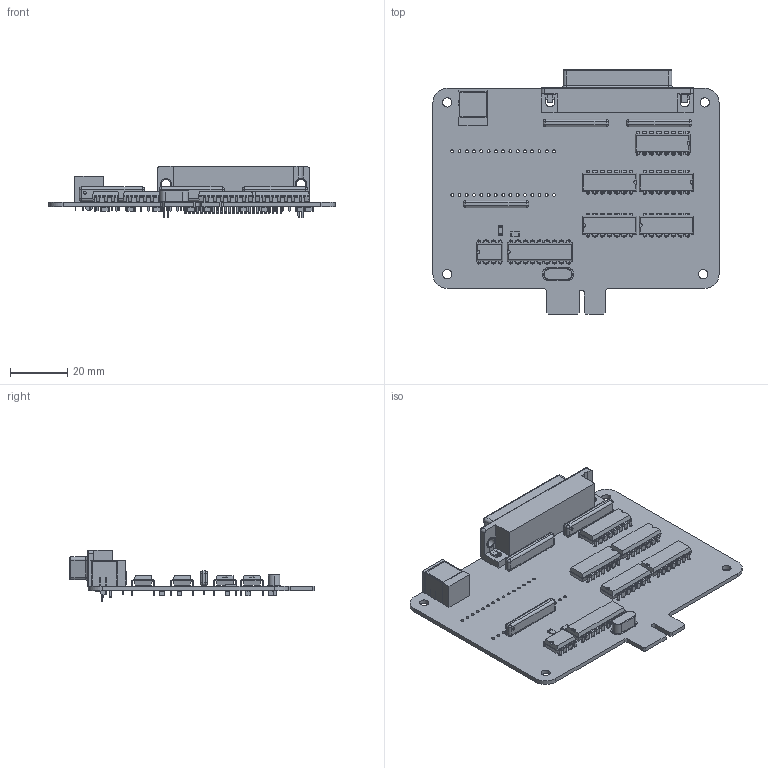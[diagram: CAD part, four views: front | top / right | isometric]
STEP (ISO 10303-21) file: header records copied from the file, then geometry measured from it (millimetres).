
FILE_DESCRIPTION(('KiCad electronic assembly'),'2;1');
FILE_NAME('BREAD_slice_v2.step','2026-10-14T14:11:18',('Pcbnew'),( 'Kicad'),'Open CASCADE STEP processor 7.6','KiCad to STEP converter' ,'Unknown');
FILE_SCHEMA(('AUTOMOTIVE_DESIGN { 1 0 10303 214 1 1 1 1 }'));
Length unit declared in the file: millimetre
Products named in the file (22): BREAD_slice_v2 1; DIP-8_W7.62mm; BarrelJack_CUI_PJ-063AH_Horizontal; DSUB-25_Socket_Horizontal_P2.77x2.84mm_EdgePinOffset4.94mm_Housed_
MountingHolesOffset4.94mm; DSUB-25_Socket_Horizontal_P2.77x2.84mm_EdgePinOffset4.94mm_Housed_ 
MountingHolesOffset4.94mm; DIP-14_W7.62mm; R_Array_SIP9; Crystal_HC49-4H_Vertical; R_1206_3216Metric; DIP-16_W7.62mm; DIP-18_W7.62mm; C_1206_3216Metric; BREAD_slice_v2-unsaved-export-eIzBW6_PCB
Assembly tree (35 placements, depth 3):
  BREAD_slice_v2 1
    DIP-8_W7.62mm
      DIP-8_W7.62mm
    BarrelJack_CUI_PJ-063AH_Horizontal
      BarrelJack_CUI_PJ-063AH_Horizontal
    DSUB-25_Socket_Horizontal_P2.77x2.84mm_EdgePinOffset4.94mm_Housed_
MountingHolesOffset4.94mm
      DSUB-25_Socket_Horizontal_P2.77x2.84mm_EdgePinOffset4.94mm_Housed_ 
MountingHolesOffset4.94mm
    DIP-14_W7.62mm  x4
      DIP-14_W7.62mm
    R_Array_SIP9  x3
      R_Array_SIP9
    Crystal_HC49-4H_Vertical
      Crystal_HC49-4H_Vertical
    R_1206_3216Metric  x2
      R_1206_3216Metric
    DIP-16_W7.62mm
      DIP-16_W7.62mm
    DIP-18_W7.62mm
      DIP-18_W7.62mm
    C_1206_3216Metric  x9
      C_1206_3216Metric
    BREAD_slice_v2-unsaved-export-eIzBW6_PCB
Bounding box: 100 x 85.41 x 17.9 mm (x, y, z)
Volume: 21826.3 mm3; surface area: 26348.3 mm2
Topology: 26 solids, 26 shells, 3020 faces, 7947 edges, 5059 vertices
Faces by surface type: plane 2068, cylinder 669, bspline 182, torus 39, cone 33, sphere 25, revolution 4
Full cylindrical faces by diameter (mm): 0.5 x2, 0.64 x25, 0.8 x127, 0.853 x25, 1 x58, 1.5 x1, 1.6 x1, 2 x1, 3.2 x8, 4 x2, 6.5 x1
Entity records: 69286 total; most frequent: CARTESIAN_POINT 11605, ORIENTED_EDGE 9396, DIRECTION 9074, EDGE_CURVE 4698, LINE 3586, VECTOR 3586, VERTEX_POINT 2993, AXIS2_PLACEMENT_3D 2742
